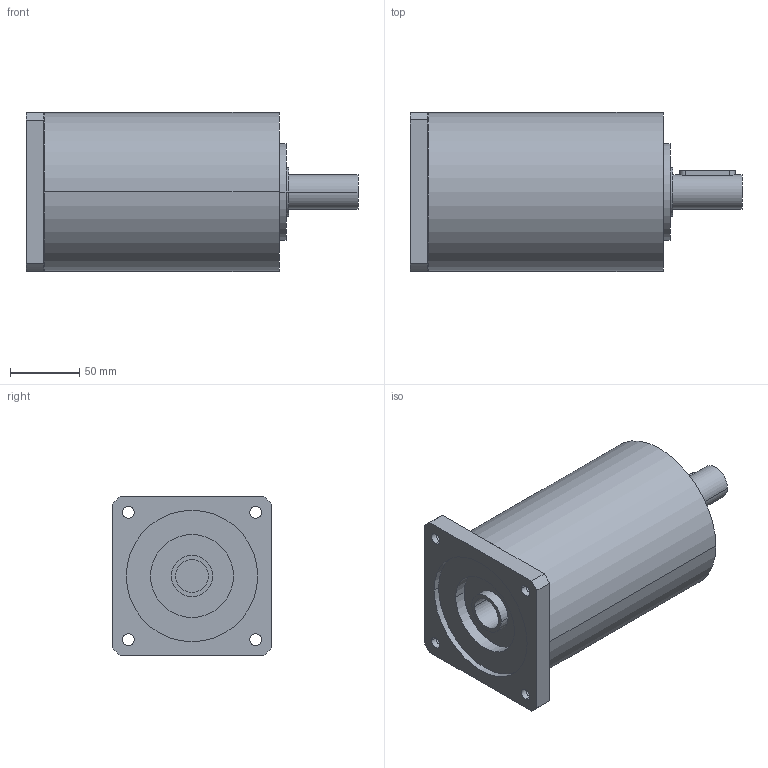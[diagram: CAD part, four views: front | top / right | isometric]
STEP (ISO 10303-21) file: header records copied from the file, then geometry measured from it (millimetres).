
FILE_DESCRIPTION(('CoCreate Modeling STEP Export'),'2;1');
FILE_NAME('GPR125_ig-9-12-16-20-28-35_25_B14_24_P18.stp','2014-08-26T14:11:26',(''),(''),'CoCreate Modeling STEP processor for AP214 (Solid Model)','CoCreate Modeling 16.00C 25-Feb-2009 (C) Parametric Technology GmbH','');
FILE_SCHEMA(('AUTOMOTIVE_DESIGN { 1 0 10303 214 1 1 1 1 }'));
Length unit declared in the file: millimetre
Products named in the file (2): GPR125_ig-9-12-16-20-28-35_25_B14_24_P18
Assembly tree (1 placements, depth 2):
  GPR125_ig-9-12-16-20-28-35_25_B14_24_P18
    GPR125_ig-9-12-16-20-28-35_25_B14_24_P18
Bounding box: 240 x 115 x 115 mm (x, y, z)
Volume: 1896223.6 mm3; surface area: 111213.5 mm2
Topology: 1 solids, 1 shells, 77 faces, 212 edges, 152 vertices
Faces by surface type: cylinder 48, plane 25, cone 4
Entity records: 2153 total; most frequent: ORIENTED_EDGE 420, CARTESIAN_POINT 399, DIRECTION 288, EDGE_CURVE 210, VERTEX_POINT 152, AXIS2_PLACEMENT_3D 109, EDGE_LOOP 102, FACE_OUTER_BOUND 77
